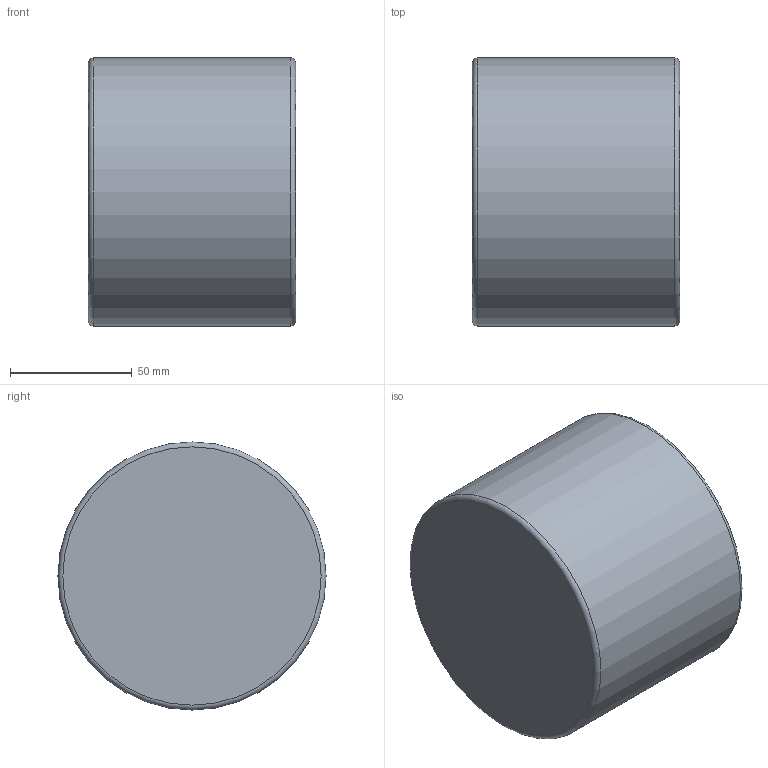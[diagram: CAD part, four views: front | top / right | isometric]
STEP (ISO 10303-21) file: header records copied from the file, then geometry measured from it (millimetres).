
FILE_DESCRIPTION(/* description */ (''),/* implementation_level */ '2;1');
FILE_NAME(/* name */ 'D:\TK Lighting\2021\Orion\Orion 3199.stp',/* time_stamp */ '2021-02-01T22:19:26+01:00',/* author */ ('Admin'),/* organization */ (''),/* preprocessor_version */ 'ST-DEVELOPER v16.5',/* originating_system */ 'Autodesk Inventor 2017',/* authorisation */ '');
FILE_SCHEMA (('AUTOMOTIVE_DESIGN { 1 0 10303 214 3 1 1 }'));
Length unit declared in the file: millimetre
Products named in the file (1): Orion 3199
Bounding box: 85 x 110 x 110 mm (x, y, z)
Volume: 64630.7 mm3; surface area: 104204.8 mm2
Topology: 1 solids, 4 shells, 21 faces, 29 edges, 17 vertices
Faces by surface type: plane 9, torus 4, cylinder 4, cone 4
Full cylindrical faces by diameter (mm): 60 x1, 64 x1, 106 x1, 110 x1
Entity records: 452 total; most frequent: DIRECTION 78, CARTESIAN_POINT 56, AXIS2_PLACEMENT_3D 39, EDGE_LOOP 36, ORIENTED_EDGE 36, STYLED_ITEM 22, FACE_OUTER_BOUND 21, ADVANCED_FACE 21
